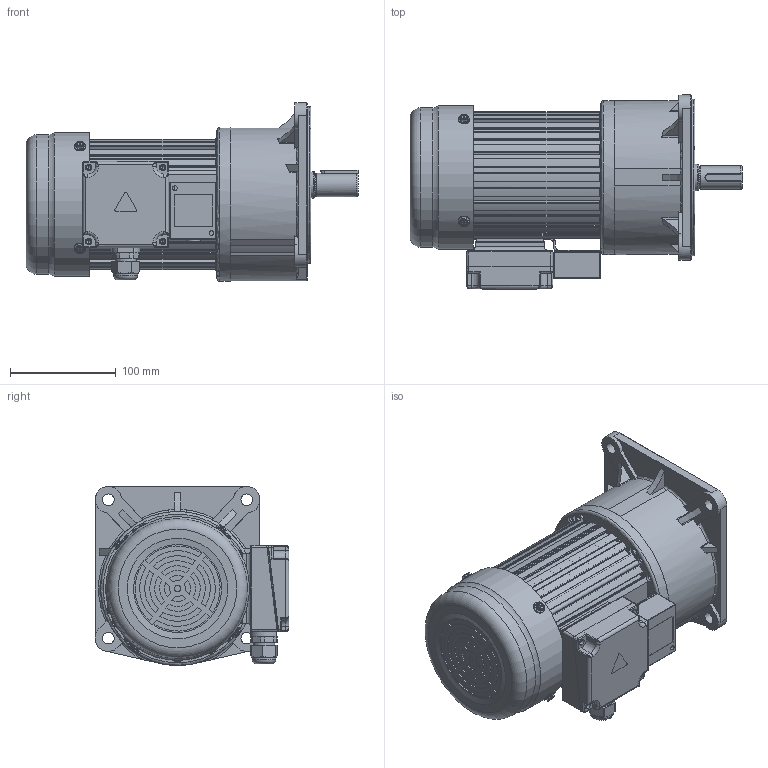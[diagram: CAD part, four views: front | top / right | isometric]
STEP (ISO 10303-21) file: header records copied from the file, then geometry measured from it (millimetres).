
FILE_DESCRIPTION(/* description */ (''),/* implementation_level */ '2;1');
FILE_NAME(/* name */ 'CV22-200-3～200外形多速比带刹车.stp',/* time_stamp */ '2025-05-02T10:05:06+08:00',/* author */ (''),/* organization */ (''),/* preprocessor_version */ 'ST-DEVELOPER v18.102',/* originating_system */ 'SIEMENS PLM Software NX 2027',/* authorisation */ '');
FILE_SCHEMA (('AP203_CONFIGURATION_CONTROLLED_3D_DESIGN_OF_MECHANICAL_PARTS_AND_ASSEMBLIES_MIM_LF { 1 0 10303 403 2 1 2}'));
Length unit declared in the file: millimetre
Products named in the file (1): CV22-200-3～200外形多速比带刹车_
objects
Bounding box: 313.8 x 183.16 x 169.16 mm (x, y, z)
Volume: 3782233 mm3; surface area: 374378.8 mm2
Topology: 23 solids, 23 shells, 3296 faces, 8591 edges, 5487 vertices
Faces by surface type: plane 1855, cylinder 853, cone 280, torus 134, extrusion 96, bspline 61, revolution 16, sphere 1
Full cylindrical faces by diameter (mm): 3 x1, 3.3 x4, 3.5 x1, 4.2 x20, 4.336 x2, 4.5 x2, 4.826 x2, 5 x4, 5.795 x5, 6 x5, 6.4 x4, 7 x3, 10 x5, 11 x13, 12.5 x1, 13 x1, 13.98 x1, 14.5 x1, 16 x3, 17 x2, 19.5 x1, 20 x3, 21 x1, 21.6 x1, 22 x1, 22.5 x1, 25 x1, 40 x1, 50 x1, 56 x1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
Entity records: 108284 total; most frequent: CARTESIAN_POINT 30330, ORIENTED_EDGE 16556, DIRECTION 15133, EDGE_CURVE 8278, VERTEX_POINT 5408, AXIS2_PLACEMENT_3D 5189, VECTOR 4739, LINE 4643
